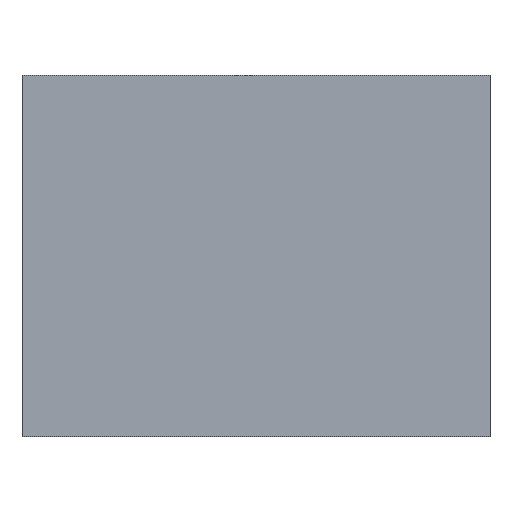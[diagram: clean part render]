
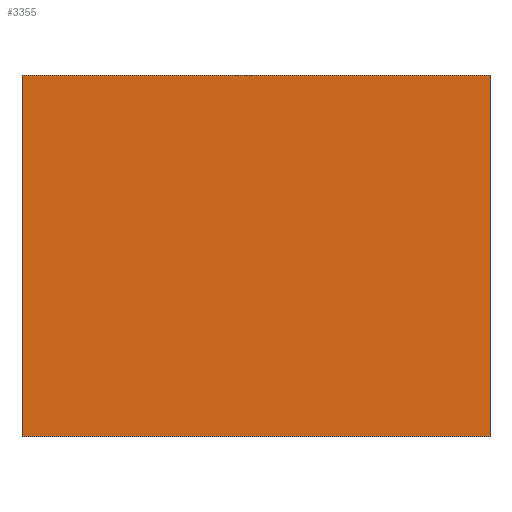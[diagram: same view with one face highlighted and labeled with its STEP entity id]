
A CAD part, top view. The second image highlights one B-rep face of the part: STEP entity #3355.
In plain terms, the highlighted planar face has unit normal (0, 0, 1).
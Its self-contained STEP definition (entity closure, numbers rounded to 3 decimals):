
#3219=CARTESIAN_POINT('Vertex',(109.5,84.5,39.)) ;
#3233=CARTESIAN_POINT('Vertex',(-109.5,84.5,39.)) ;
#3236=CARTESIAN_POINT('Line Origine',(0.,84.5,39.)) ;
#3264=CARTESIAN_POINT('Vertex',(-109.5,-84.5,39.)) ;
#3267=CARTESIAN_POINT('Line Origine',(-109.5,0.,39.)) ;
#3295=CARTESIAN_POINT('Vertex',(109.5,-84.5,39.)) ;
#3298=CARTESIAN_POINT('Line Origine',(0.,-84.5,39.)) ;
#3320=CARTESIAN_POINT('Line Origine',(109.5,0.,39.)) ;
#3344=CARTESIAN_POINT('Axis2P3D Location',(0.,0.,39.)) ;
#3237=DIRECTION('Vector Direction',(1.,0.,0.)) ;
#3268=DIRECTION('Vector Direction',(0.,1.,0.)) ;
#3299=DIRECTION('Vector Direction',(-1.,0.,0.)) ;
#3321=DIRECTION('Vector Direction',(0.,-1.,0.)) ;
#3345=DIRECTION('Axis2P3D Direction',(0.,0.,1.)) ;
#3346=DIRECTION('Axis2P3D XDirection',(1.,0.,0.)) ;
#3347=AXIS2_PLACEMENT_3D('Plane Axis2P3D',#3344,#3345,#3346) ;
#3350=ORIENTED_EDGE('',*,*,#3240,.T.) ;
#3351=ORIENTED_EDGE('',*,*,#3271,.T.) ;
#3352=ORIENTED_EDGE('',*,*,#3302,.T.) ;
#3353=ORIENTED_EDGE('',*,*,#3324,.T.) ;
#3238=VECTOR('Line Direction',#3237,1.) ;
#3269=VECTOR('Line Direction',#3268,1.) ;
#3300=VECTOR('Line Direction',#3299,1.) ;
#3322=VECTOR('Line Direction',#3321,1.) ;
#3355=ADVANCED_FACE('cavity',(#3354),#3348,.T.) ;
#3240=EDGE_CURVE('',#3220,#3234,#3239,.F.) ;
#3271=EDGE_CURVE('',#3234,#3265,#3270,.F.) ;
#3302=EDGE_CURVE('',#3265,#3296,#3301,.F.) ;
#3324=EDGE_CURVE('',#3296,#3220,#3323,.F.) ;
#3349=EDGE_LOOP('',(#3350,#3351,#3352,#3353)) ;
#3354=FACE_OUTER_BOUND('',#3349,.T.) ;
#3239=LINE('Line',#3236,#3238) ;
#3270=LINE('Line',#3267,#3269) ;
#3301=LINE('Line',#3298,#3300) ;
#3323=LINE('Line',#3320,#3322) ;
#3348=PLANE('Plane',#3347) ;
#3220=VERTEX_POINT('',#3219) ;
#3234=VERTEX_POINT('',#3233) ;
#3265=VERTEX_POINT('',#3264) ;
#3296=VERTEX_POINT('',#3295) ;
